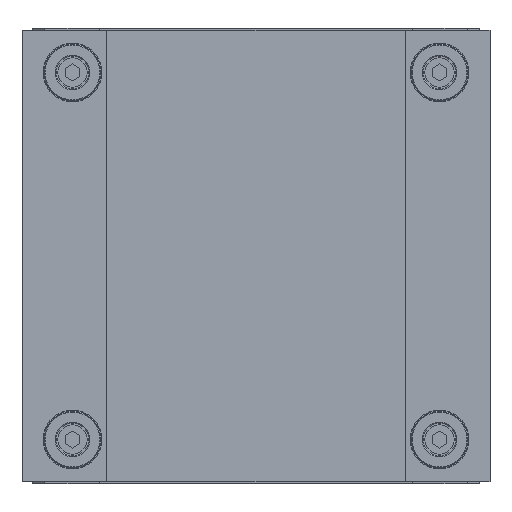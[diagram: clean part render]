
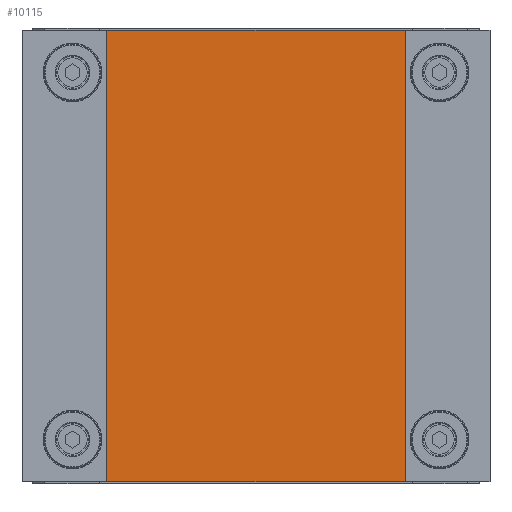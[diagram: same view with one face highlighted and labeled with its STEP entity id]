
A CAD part, front view. The second image highlights one B-rep face of the part: STEP entity #10115.
In plain terms, the highlighted planar face has unit normal (0, -1, 0).
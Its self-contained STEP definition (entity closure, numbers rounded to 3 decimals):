
#163 = LINE ( 'NONE', #164, #165 ) ;
#164 = CARTESIAN_POINT ( 'NONE',  ( -84.5, -20., 123. ) ) ;
#165 = VECTOR ( 'NONE', #166, 1000. ) ;
#166 = DIRECTION ( 'NONE',  ( 0., 0., -1. ) ) ;
#331 = ORIENTED_EDGE ( 'NONE', *, *, #683, .T. ) ;
#384 = CARTESIAN_POINT ( 'NONE',  ( -84.5, -20., 123. ) ) ;
#683 = EDGE_CURVE ( 'NONE', #7434, #4682, #6927, .T. ) ;
#1199 = ORIENTED_EDGE ( 'NONE', *, *, #5608, .F. ) ;
#1716 = ORIENTED_EDGE ( 'NONE', *, *, #2047, .F. ) ;
#1740 = FACE_OUTER_BOUND ( 'NONE', #10439, .T. ) ;
#1741 = PLANE ( 'NONE',  #1742 ) ;
#1742 = AXIS2_PLACEMENT_3D ( 'NONE', #1743, #1744, #1745 ) ;
#1743 = CARTESIAN_POINT ( 'NONE',  ( 84.5, -20., 123. ) ) ;
#1744 = DIRECTION ( 'NONE',  ( 0., 1., 0. ) ) ;
#1745 = DIRECTION ( 'NONE',  ( -1., 0., 0. ) ) ;
#2033 = CARTESIAN_POINT ( 'NONE',  ( 84.5, -20., 123. ) ) ;
#2047 = EDGE_CURVE ( 'NONE', #8488, #5444, #7448, .T. ) ;
#2369 = LINE ( 'NONE', #2370, #2371 ) ;
#2370 = CARTESIAN_POINT ( 'NONE',  ( 84.5, -20., 123. ) ) ;
#2371 = VECTOR ( 'NONE', #2372, 1000. ) ;
#2372 = DIRECTION ( 'NONE',  ( 0., 0., -1. ) ) ;
#2571 = ORIENTED_EDGE ( 'NONE', *, *, #8229, .T. ) ;
#4682 = VERTEX_POINT ( 'NONE', #9431 ) ;
#5444 = VERTEX_POINT ( 'NONE', #2033 ) ;
#5608 = EDGE_CURVE ( 'NONE', #5444, #4682, #2369, .T. ) ;
#6927 = LINE ( 'NONE', #6928, #6929 ) ;
#6928 = CARTESIAN_POINT ( 'NONE',  ( 84.5, -20., -123. ) ) ;
#6929 = VECTOR ( 'NONE', #6930, 1000. ) ;
#6930 = DIRECTION ( 'NONE',  ( 1., 0., 0. ) ) ;
#7434 = VERTEX_POINT ( 'NONE', #10222 ) ;
#7448 = LINE ( 'NONE', #7449, #7450 ) ;
#7449 = CARTESIAN_POINT ( 'NONE',  ( 84.5, -20., 123. ) ) ;
#7450 = VECTOR ( 'NONE', #7451, 1000. ) ;
#7451 = DIRECTION ( 'NONE',  ( 1., 0., 0. ) ) ;
#8229 = EDGE_CURVE ( 'NONE', #8488, #7434, #163, .T. ) ;
#8488 = VERTEX_POINT ( 'NONE', #384 ) ;
#9431 = CARTESIAN_POINT ( 'NONE',  ( 84.5, -20., -123. ) ) ;
#10115 = ADVANCED_FACE ( 'NONE', ( #1740 ), #1741, .F. ) ;
#10222 = CARTESIAN_POINT ( 'NONE',  ( -84.5, -20., -123. ) ) ;
#10439 = EDGE_LOOP ( 'NONE', ( #331, #1199, #1716, #2571 ) ) ;
